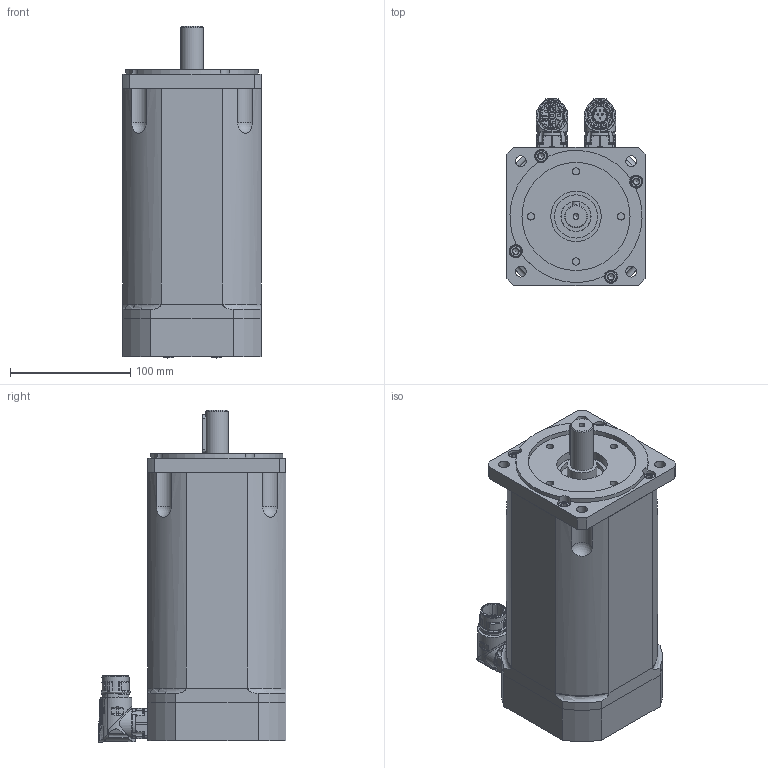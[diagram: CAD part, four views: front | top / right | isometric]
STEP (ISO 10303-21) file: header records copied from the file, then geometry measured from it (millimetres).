
FILE_DESCRIPTION(/* description */ (''),/* implementation_level */ '2;1');
FILE_NAME(/* name */ 'C:\Users\Public\Documents\Autodesk\Inventor LT 2014\Workspace\Motori Sito WEB\TG_4\STEP_DSM5_4x\DSM5_42_x197.stp',/* time_stamp */ '2021-03-15T15:13:49+01:00',/* author */ ('marcor'),/* organization */ (''),/* preprocessor_version */ 'ST-DEVELOPER v15.2',/* originating_system */ 'Autodesk Inventor LT ',/* authorisation */ '');
FILE_SCHEMA (('AUTOMOTIVE_DESIGN { 1 0 10303 214 3 1 1 }'));
Products named in the file (1): DSM5_42_x197
Bounding box: 115 x 156.5 x 276.41 mm (x, y, z)
Volume: 2851880.4 mm3; surface area: 232465.8 mm2
Topology: 16 solids, 26 shells, 1471 faces, 3858 edges, 2570 vertices
Faces by surface type: plane 522, cylinder 442, cone 287, bspline 113, torus 75, sphere 32
Full cylindrical faces by diameter (mm): 1.2 x12, 2.224 x8, 2.233 x6, 2.5 x8, 2.88 x8, 3.26 x8, 4.134 x4, 4.5 x2, 4.8 x8, 4.917 x9, 5 x4, 5.5 x7, 5.9 x2, 6 x12, 6.5 x8, 8.5 x4, 9 x4, 10 x12, 11 x8, 15.2 x1, 17.4 x3, 18 x1, 19 x1, 19.8 x1, 21.15 x4, 21.6 x1, 21.653 x2, 23.8 x1, 24.3 x2, 24.9 x1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
Entity records: 52348 total; most frequent: CARTESIAN_POINT 17867, ORIENTED_EDGE 6846, DIRECTION 6385, EDGE_CURVE 3423, AXIS2_PLACEMENT_3D 2597, VERTEX_POINT 2453, EDGE_LOOP 1986, ADVANCED_FACE 1471
